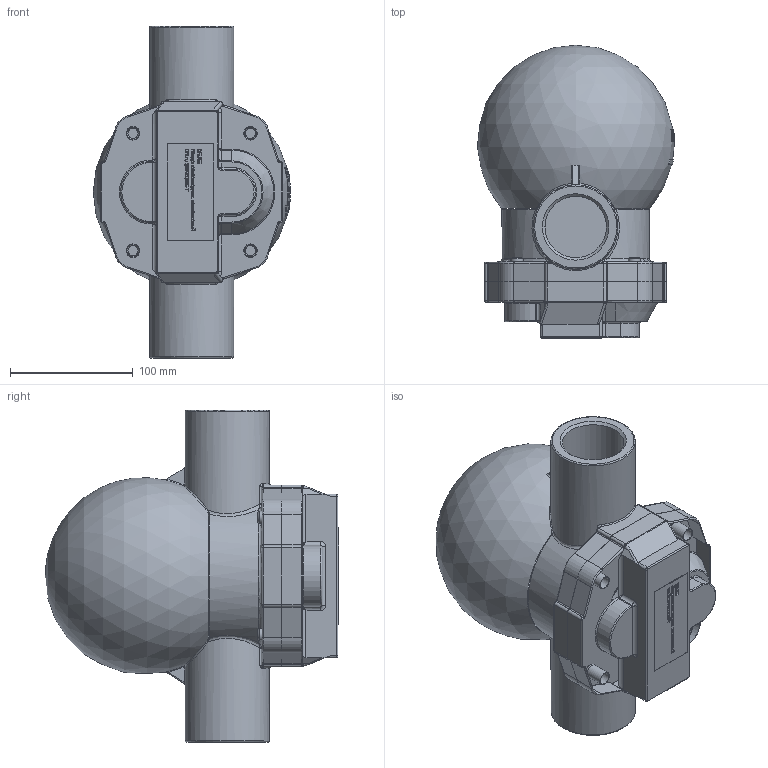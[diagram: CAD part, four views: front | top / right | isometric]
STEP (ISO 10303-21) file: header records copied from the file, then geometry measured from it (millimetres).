
FILE_DESCRIPTION(('STEP AP214'), '1');
FILE_NAME('STF2131K-T Êîíäåíñàòîîòâîä÷èê ïîïëàâêîâûé DN.ru Äó50 Ðó16', '', ('UNSPECIFIED'), ('UNSPECIFIED'), 'C3D Converter', 'C3D Toolkit', '');
FILE_SCHEMA(('AUTOMOTIVE_DESIGN { 1 0 10303 214 3 1 1}'));
Length unit declared in the file: millimetre
Products named in the file (1): STF2131K-T
Bounding box: 160.44 x 238.6 x 270 mm (x, y, z)
Volume: 6067.5 mm3; surface area: 216512.4 mm2
Topology: 4 solids, 5 shells, 1214 faces, 3177 edges, 2044 vertices
Faces by surface type: plane 588, bspline 341, cylinder 171, torus 62, extrusion 29, sphere 12, cone 11
Full cylindrical faces by diameter (mm): 10 x8, 11 x8, 50 x2, 50.24 x1, 68.656 x2
Entity records: 87065 total; most frequent: CARTESIAN_POINT 50708, ORIENTED_EDGE 6198, DIRECTION 4546, EDGE_CURVE 3127, VERTEX_POINT 2042, VECTOR 1854, LINE 1825, AXIS2_PLACEMENT_3D 1346
